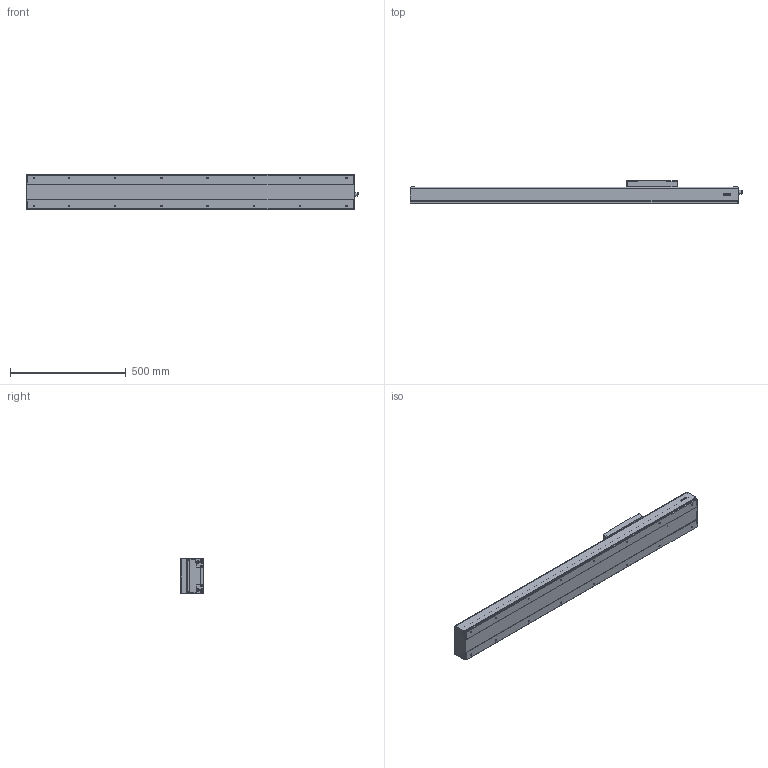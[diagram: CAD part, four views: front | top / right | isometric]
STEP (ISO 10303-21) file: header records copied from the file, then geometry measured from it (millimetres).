
FILE_DESCRIPTION(/* description */ (''),/* implementation_level */ '2;1');
FILE_NAME(/* name */ 'D:\混合母檔20191031\混和母檔\混和母檔\bin\Debug\Download\3D\KS150-10C-900AFI\KS150-10C-900AFI.stp',/* time_stamp */ '2019-11-04T15:51:16+08:00',/* author */ ('user'),/* organization */ (''),/* preprocessor_version */ 'ST-DEVELOPER v16.13',/* originating_system */ 'Autodesk Inventor 2018',/* authorisation */ '');
FILE_SCHEMA (('AUTOMOTIVE_DESIGN { 1 0 10303 214 3 1 1 }'));
Length unit declared in the file: millimetre
Products named in the file (3): KS150-10C-900AFI; KS150-FI; KS150-SL
Assembly tree (2 placements, depth 2):
  KS150-10C-900AFI
    KS150-FI
    KS150-SL
Bounding box: 1435.05 x 100 x 152.4 mm (x, y, z)
Volume: 5884044.3 mm3; surface area: 1410252.1 mm2
Topology: 4 solids, 8 shells, 1245 faces, 3285 edges, 2130 vertices
Faces by surface type: plane 615, cone 230, cylinder 192, bspline 136, torus 68, sphere 4
Full cylindrical faces by diameter (mm): 3.242 x12, 3.571 x8, 4.134 x4, 4.5 x8, 4.509 x6, 4.917 x4, 5 x18, 5.5 x12, 6 x2, 6.647 x20, 8 x4, 8.4 x8, 9.3 x12, 10.437 x1, 12 x1, 14 x1, 15 x1, 15.538 x1, 23 x1, 46 x1, 50 x1
Entity records: 41048 total; most frequent: CARTESIAN_POINT 12732, ORIENTED_EDGE 5848, DIRECTION 5441, EDGE_CURVE 2924, VERTEX_POINT 2020, AXIS2_PLACEMENT_3D 1888, LINE 1665, VECTOR 1665
